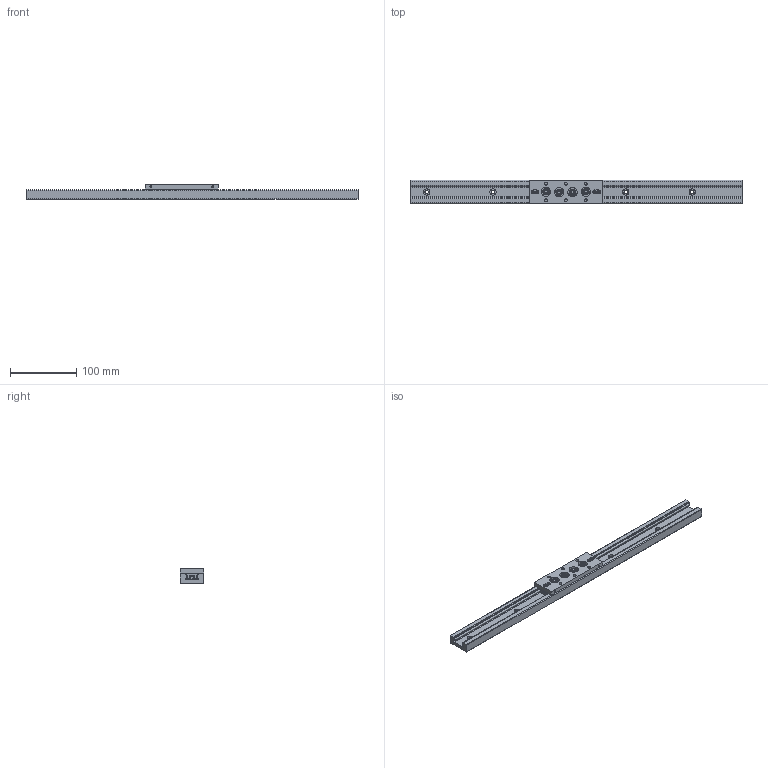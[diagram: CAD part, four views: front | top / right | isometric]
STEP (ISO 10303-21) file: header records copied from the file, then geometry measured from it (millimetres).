
FILE_DESCRIPTION((''),'2;1');
FILE_NAME('C:\Documents and Settings\土屋\My Documents\土屋移動用フォルダ\製品 (図面3D用)\お客様用\LSIJ3522.stp','2019-12-25T11:32:06',('y'),(''),'Autodesk Inventor 11','Autodesk Inventor 11','');
FILE_SCHEMA(('AUTOMOTIVE_DESIGN { 1 0 10303 214 1 1 1 1 }'));
Length unit declared in the file: millimetre
Products named in the file (3): LSIJ3522; LSI3522レール; LSIJ3522キャリッジ(1)
Assembly tree (2 placements, depth 2):
  LSIJ3522
    LSI3522レール
    LSIJ3522キャリッジ(1)
Bounding box: 500 x 35 x 22 mm (x, y, z)
Volume: 198062.2 mm3; surface area: 78467.5 mm2
Topology: 8 solids, 8 shells, 530 faces, 1306 edges, 851 vertices
Faces by surface type: plane 266, bspline 142, cylinder 66, cone 54, sphere 2
Full cylindrical faces by diameter (mm): 3 x2, 4.5 x2, 5 x4, 8.6 x8, 10 x4, 14 x4, 16 x8
Entity records: 15971 total; most frequent: CARTESIAN_POINT 4266, ORIENTED_EDGE 2426, DIRECTION 2171, EDGE_CURVE 1213, VERTEX_POINT 834, VECTOR 801, LINE 801, EDGE_LOOP 687
